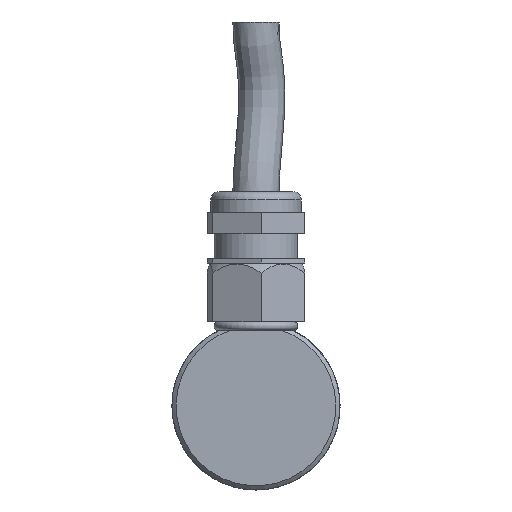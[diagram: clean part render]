
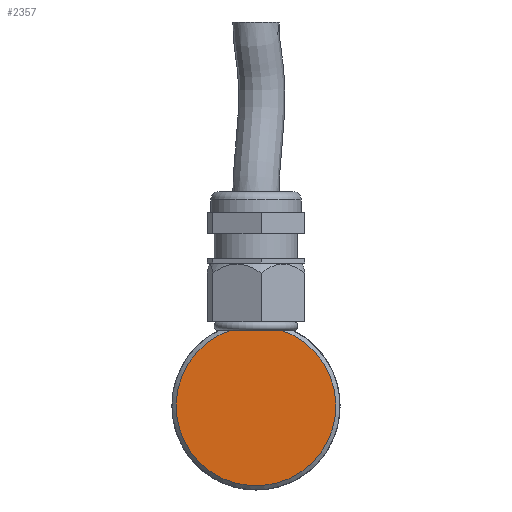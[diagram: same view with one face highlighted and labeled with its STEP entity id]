
A CAD part, left-side view. The second image highlights one B-rep face of the part: STEP entity #2357.
In plain terms, the highlighted planar face has unit normal (-1, 0, 0).
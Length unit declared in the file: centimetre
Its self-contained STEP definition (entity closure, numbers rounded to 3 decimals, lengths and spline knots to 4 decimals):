
#688=PLANE('',#2516);
#711=VECTOR('',#5297,1.);
#829=LINE('',#2648,#711);
#1034=VERTEX_POINT('',#2631);
#1037=VERTEX_POINT('',#2638);
#1201=CIRCLE('',#2411,0.95);
#1279=EDGE_CURVE('',#1037,#1034,#1201,.T.);
#1284=EDGE_CURVE('',#1037,#1034,#829,.T.);
#1870=ORIENTED_EDGE('',*,*,#1279,.F.);
#1871=ORIENTED_EDGE('',*,*,#1284,.T.);
#2094=EDGE_LOOP('',(#1870,#1871));
#2230=FACE_BOUND('',#2094,.T.);
#2357=ADVANCED_FACE('',(#2230),#688,.T.);
#2411=AXIS2_PLACEMENT_3D('',#2639,#5289,#5290);
#2516=AXIS2_PLACEMENT_3D('',#4924,#5528,$);
#2631=CARTESIAN_POINT('',(0.,0.3041,0.9));
#2638=CARTESIAN_POINT('',(0.,-0.3041,0.9));
#2639=CARTESIAN_POINT('',(0.,0.,0.));
#2648=CARTESIAN_POINT('',(0.,2.775,0.9));
#4924=CARTESIAN_POINT('',(0.,0.,-0.5));
#5289=DIRECTION('',(1.,0.,0.));
#5290=DIRECTION('',(0.,0.,-0.95));
#5297=DIRECTION('',(0.,1.,0.));
#5528=DIRECTION('',(-1.,0.,0.));
